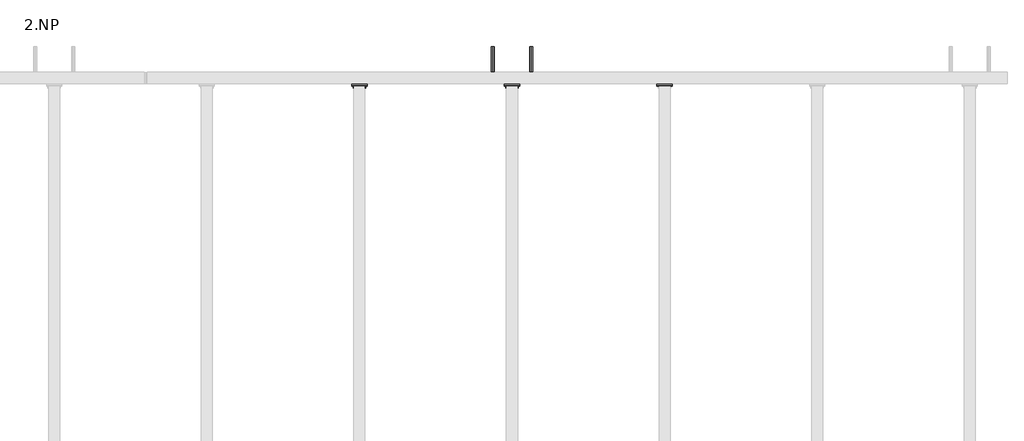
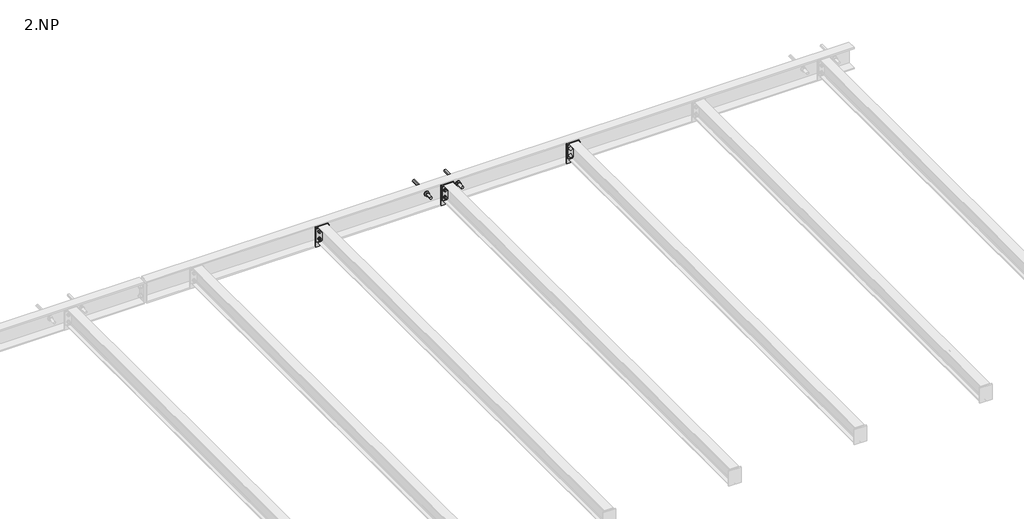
# One storey, part 12 of 18: 12 proxies.
"""IFC4 building model written with IfcOpenShell, lengths in millimetres."""

import ifcopenshell
import ifcopenshell.guid

model = None  # the IFC model being written
_history = None  # IfcOwnerHistory: only IFC2X3 demands one
_inside = {}  # id of a spatial element -> (the spatial element, [elements in it])
_under = {}  # id of a project, library or spatial element -> (it, [spatial elements below it])
_declared = {}  # id of a project -> (the project, [libraries it declares])
_typed = {}  # id of a type object -> (the type object, [elements of that type])
_made_of = {}  # id of a material, layer set ... -> (it, [elements and type objects made of it])


def new_model(schema):
    """Start an empty IFC model of exactly this schema.

    Asked for "IFC4X3", IfcOpenShell would pick the latest addendum, in which some entities
    have other attributes; the version numbers below select the first issue.
    IFC2X3 requires an IfcOwnerHistory on every rooted entity: one is made here for all.
    """
    global model, _history
    if schema == "IFC4X3":
        model = ifcopenshell.file(schema_version=(4, 3, 0, 0))
    else:
        model = ifcopenshell.file(schema=schema)
    _inside.clear()
    _under.clear()
    _declared.clear()
    _typed.clear()
    _made_of.clear()
    _history = None
    if model.schema == "IFC2X3":
        org = make("IfcOrganization", Name="unknown")
        user = make(
            "IfcPersonAndOrganization",
            ThePerson=make("IfcPerson", FamilyName="unknown"),
            TheOrganization=org,
        )
        app = make(
            "IfcApplication",
            ApplicationDeveloper=org,
            Version="unknown",
            ApplicationFullName="unknown",
            ApplicationIdentifier="unknown",
        )
        _history = make(
            "IfcOwnerHistory",
            OwningUser=user,
            OwningApplication=app,
            ChangeAction="ADDED",
            CreationDate=0,
        )
    return model


def make(cls, **values):
    """One entity of the class cls with the attributes given. An attribute that is None is left unset."""
    return model.create_entity(
        cls, **{name: value for name, value in values.items() if value is not None}
    )


def rooted(cls, **values):
    """An entity with a GlobalId (a new one), such as an element, a storey or a relation."""
    return make(cls, GlobalId=ifcopenshell.guid.new(), OwnerHistory=_history, **values)


def si_unit(unit_type, name, prefix=None):
    """IfcSIUnit, for example si_unit("LENGTHUNIT", "METRE", prefix="MILLI")."""
    return make("IfcSIUnit", UnitType=unit_type, Prefix=prefix, Name=name)


def assignment(units):
    """IfcUnitAssignment: the units of a project."""
    return None if units is None else make("IfcUnitAssignment", Units=units)


def point(xyz):
    """IfcCartesianPoint."""
    return None if xyz is None else make("IfcCartesianPoint", Coordinates=xyz)


def direction(xyz):
    """IfcDirection."""
    return None if xyz is None else make("IfcDirection", DirectionRatios=xyz)


def frame(location, z_axis=None, x_axis=None):
    """IfcAxis2Placement3D, a coordinate frame: its origin and axes. An axis left out is left unset."""
    return make(
        "IfcAxis2Placement3D",
        Location=point(location),
        Axis=direction(z_axis),
        RefDirection=direction(x_axis),
    )


def frame_2d(location, x_axis=None):
    """IfcAxis2Placement2D, a coordinate frame in the plane: its origin and x axis."""
    return make(
        "IfcAxis2Placement2D", Location=point(location), RefDirection=direction(x_axis)
    )


def origin():
    """The frame at (0, 0, 0) with its axes left unset."""
    return frame((0.0, 0.0, 0.0))


def place(relative_to, where):
    """IfcLocalPlacement: puts the frame where relative to a parent placement (None: the world)."""
    return make(
        "IfcLocalPlacement", PlacementRelTo=relative_to, RelativePlacement=where
    )


def context(
    kind, dimensions, precision=None, world=None, true_north=None, identifier=None
):
    """IfcGeometricRepresentationContext, for example the 3D "Model" context."""
    return make(
        "IfcGeometricRepresentationContext",
        ContextIdentifier=identifier,
        ContextType=kind,
        CoordinateSpaceDimension=dimensions,
        Precision=precision,
        WorldCoordinateSystem=world,
        TrueNorth=true_north,
    )


def project(units=None, contexts=None):
    """IfcProject with its units and contexts."""
    return rooted(
        "IfcProject",
        Name="project",
        RepresentationContexts=contexts,
        UnitsInContext=assignment(units),
    )


def spatial(cls, under=None, at=None, **own):
    """A site, building, storey or space (cls), placed at a placement, below another one or the project."""
    s = rooted(cls, ObjectPlacement=at, **own)
    if under is not None:
        _under.setdefault(under.id(), (under, []))[1].append(s)
    return s


def polyline(points):
    """IfcPolyline through the points."""
    return make("IfcPolyline", Points=[point(p) for p in points])


def circle_curve(where, radius):
    """IfcCircle in the frame where."""
    return make("IfcCircle", Position=where, Radius=radius)


def trimmed(basis, trim1, trim2, sense, master):
    """IfcTrimmedCurve: the piece of a basis curve between two trims."""
    return make(
        "IfcTrimmedCurve",
        BasisCurve=basis,
        Trim1=trim1,
        Trim2=trim2,
        SenseAgreement=sense,
        MasterRepresentation=master,
    )


def segment(curve, same_sense, transition):
    """IfcCompositeCurveSegment."""
    return make(
        "IfcCompositeCurveSegment",
        Transition=transition,
        SameSense=same_sense,
        ParentCurve=curve,
    )


def composite_curve(segments, self_intersect=None):
    """IfcCompositeCurve: segments joined end to end."""
    return make("IfcCompositeCurve", Segments=segments, SelfIntersect=self_intersect)


def outline(outer, holes=None, kind="AREA"):
    """IfcArbitraryClosedProfileDef: a profile drawn as a closed curve; with holes, ...WithVoids."""
    if holes is None:
        return make("IfcArbitraryClosedProfileDef", ProfileType=kind, OuterCurve=outer)
    return make(
        "IfcArbitraryProfileDefWithVoids",
        ProfileType=kind,
        OuterCurve=outer,
        InnerCurves=holes,
    )


def extrude(swept, where, along, depth):
    """IfcExtrudedAreaSolid: the profile swept, set in the frame where, extruded along a direction by depth."""
    return make(
        "IfcExtrudedAreaSolid",
        SweptArea=swept,
        Position=where,
        ExtrudedDirection=direction(along),
        Depth=depth,
    )


def shape(context_of_items, identifier, shape_type, items):
    """IfcShapeRepresentation: the items that make up one representation, for example the "Body"."""
    return make(
        "IfcShapeRepresentation",
        ContextOfItems=context_of_items,
        RepresentationIdentifier=identifier,
        RepresentationType=shape_type,
        Items=items,
    )


def made_of(thing, what):
    """Note that an element or type object is made of a material, layer set ...; save() writes the relation."""
    if what is not None:
        _made_of.setdefault(what.id(), (what, []))[1].append(thing)
    return thing


def element(
    cls,
    number,
    at=None,
    inside=None,
    cuts=None,
    type_object=None,
    material=None,
    context=None,
    identifier="Body",
    shape_type=None,
    held_by="IfcProductDefinitionShape",
    body=None,
    shapes=None,
    **own,
):
    """One element of the class cls, such as IfcWall. Its Tag is "e" and its number.

    at: its placement. inside: the storey or other place that contains it. cuts: it is an
    opening in that element (IfcRelVoidsElement). A single representation is given by context,
    identifier, shape_type and body (its items); several are given by shapes. held_by: the class
    of the entity that holds the representations. save() writes the other relations.
    """
    e = rooted(cls, Tag="e%d" % number, ObjectPlacement=at, **own)
    if body is not None:
        shapes = [shape(context, identifier, shape_type, body)]
    if shapes is not None:
        e.Representation = make(held_by, Representations=shapes)
    if inside is not None:
        _inside.setdefault(inside.id(), (inside, []))[1].append(e)
    if cuts is not None:
        rooted(
            "IfcRelVoidsElement", RelatingBuildingElement=cuts, RelatedOpeningElement=e
        )
    if type_object is not None:
        _typed.setdefault(type_object.id(), (type_object, []))[1].append(e)
    return made_of(e, material)


def aggregate(whole, parts):
    """IfcRelAggregates: a whole, such as a stair, and the parts it consists of."""
    return rooted("IfcRelAggregates", RelatingObject=whole, RelatedObjects=parts)


def save(model, path):
    """Write the relations noted so far, then the file.

    IfcRelAggregates (storeys below a building ...), IfcRelContainedInSpatialStructure (elements
    in a storey), IfcRelDefinesByType, IfcRelAssociatesMaterial and IfcRelDeclares: one each for
    every whole, place, type object, material and project.
    """
    for whole, parts in _under.values():
        aggregate(whole, parts)
    for where, things in _inside.values():
        rooted(
            "IfcRelContainedInSpatialStructure",
            RelatedElements=things,
            RelatingStructure=where,
        )
    for kind, things in _typed.values():
        rooted("IfcRelDefinesByType", RelatedObjects=things, RelatingType=kind)
    for what, things in _made_of.values():
        rooted("IfcRelAssociatesMaterial", RelatedObjects=things, RelatingMaterial=what)
    for by, libraries in _declared.values():
        rooted("IfcRelDeclares", RelatingContext=by, RelatedDefinitions=libraries)
    model.write(path)


model = new_model("IFC4")

# Units and contexts
model_context = context("Model", 3, world=origin())
ifc_project = project(units=[si_unit("LENGTHUNIT", "METRE", prefix="MILLI")], contexts=[model_context])

# Site, building, storey
site = spatial("IfcSite", under=ifc_project)
building = spatial("IfcBuilding", under=site)
storey = spatial("IfcBuildingStorey", under=building, Name="2.NP", Elevation=3000.0)

# Proxies
placement = place(None, origin())
element("IfcBuildingElementProxy", 1, Name="PLECH", ObjectType="PLECH", at=placement, inside=storey, context=model_context, shape_type="SweptSolid", body=[
    extrude(outline(polyline([(8000.0, 3775.0), (8100.0, 3775.0), (8100.0, 3767.0), (8000.0, 3767.0), (8000.0, 3775.0)])), frame((0.0, 0.0, 3175.0), z_axis=(0.0, 0.0, 1.0), x_axis=(1.0, 0.0, 0.0)), (0.0, 0.0, 1.0), 110.0),
])
element("IfcBuildingElementProxy", 2, Name="PLECH", ObjectType="PLECH", at=placement, inside=storey, context=model_context, shape_type="SweptSolid", body=[
    extrude(outline(polyline([(9000.0, 3775.0), (9100.0, 3775.0), (9100.0, 3767.0), (9000.0, 3767.0), (9000.0, 3775.0)])), frame((0.0, 0.0, 3175.0), z_axis=(0.0, 0.0, 1.0), x_axis=(1.0, 0.0, 0.0)), (0.0, 0.0, 1.0), 110.0),
])
element("IfcBuildingElementProxy", 3, Name="PLECH", ObjectType="PLECH", at=placement, inside=storey, context=model_context, shape_type="SweptSolid", body=[
    extrude(outline(polyline([(10000.0, 3775.0), (10100.0, 3775.0), (10100.0, 3767.0), (10000.0, 3767.0), (10000.0, 3775.0)])), frame((0.0, 0.0, 3175.0), z_axis=(0.0, 0.0, 1.0), x_axis=(1.0, 0.0, 0.0)), (0.0, 0.0, 1.0), 110.0),
])
element("IfcBuildingElementProxy", 4, Name="PLECH", ObjectType="PLECH", at=placement, inside=storey, context=model_context, shape_type="SweptSolid", body=[
    extrude(outline(polyline([(8000.0, 3785.0), (8100.0, 3785.0), (8100.0, 3775.0), (8000.0, 3775.0), (8000.0, 3785.0)])), frame((0.0, 0.0, 3128.0), z_axis=(0.0, 0.0, 1.0), x_axis=(1.0, 0.0, 0.0)), (0.0, 0.0, 1.0), 164.0),
])
element("IfcBuildingElementProxy", 5, Name="PLECH", ObjectType="PLECH", at=placement, inside=storey, context=model_context, shape_type="SweptSolid", body=[
    extrude(outline(composite_curve([segment(polyline([(3785.0, 3289.5), (3834.5, 3289.5)]), True, "CONTINUOUS"), segment(trimmed(circle_curve(frame_2d((3854.5, 3289.5)), 20.0), [point((3834.5, 3289.5))], [point((3854.5, 3269.5))], True, "CARTESIAN"), True, "CONTINUOUS"), segment(polyline([(3854.5, 3269.5), (3854.5, 3150.5)]), True, "CONTINUOUS"), segment(trimmed(circle_curve(frame_2d((3854.5, 3130.5)), 20.0), [point((3854.5, 3150.5))], [point((3834.5, 3130.5))], True, "CARTESIAN"), True, "CONTINUOUS"), segment(polyline([(3834.5, 3130.5), (3785.0, 3130.5), (3785.0, 3289.5)]), True, "CONTINUOUS")], self_intersect=False)), frame((8047.0, 0.0, 0.0), z_axis=(1.0, 0.0, 0.0), x_axis=(0.0, 1.0, 0.0)), (0.0, 0.0, 1.0), 6.0),
])
element("IfcBuildingElementProxy", 6, Name="PLECH", ObjectType="PLECH", at=placement, inside=storey, context=model_context, shape_type="SweptSolid", body=[
    extrude(outline(polyline([(9000.0, 3785.0), (9100.0, 3785.0), (9100.0, 3775.0), (9000.0, 3775.0), (9000.0, 3785.0)])), frame((0.0, 0.0, 3128.0), z_axis=(0.0, 0.0, 1.0), x_axis=(1.0, 0.0, 0.0)), (0.0, 0.0, 1.0), 164.0),
])
element("IfcBuildingElementProxy", 7, Name="PLECH", ObjectType="PLECH", at=placement, inside=storey, context=model_context, shape_type="SweptSolid", body=[
    extrude(outline(composite_curve([segment(polyline([(3785.0, 3289.5), (3834.5, 3289.5)]), True, "CONTINUOUS"), segment(trimmed(circle_curve(frame_2d((3854.5, 3289.5)), 20.0), [point((3834.5, 3289.5))], [point((3854.5, 3269.5))], True, "CARTESIAN"), True, "CONTINUOUS"), segment(polyline([(3854.5, 3269.5), (3854.5, 3150.5)]), True, "CONTINUOUS"), segment(trimmed(circle_curve(frame_2d((3854.5, 3130.5)), 20.0), [point((3854.5, 3150.5))], [point((3834.5, 3130.5))], True, "CARTESIAN"), True, "CONTINUOUS"), segment(polyline([(3834.5, 3130.5), (3785.0, 3130.5), (3785.0, 3289.5)]), True, "CONTINUOUS")], self_intersect=False)), frame((9047.0, 0.0, 0.0), z_axis=(1.0, 0.0, 0.0), x_axis=(0.0, 1.0, 0.0)), (0.0, 0.0, 1.0), 6.0),
])
element("IfcBuildingElementProxy", 8, Name="PLECH", ObjectType="PLECH", at=placement, inside=storey, context=model_context, shape_type="SweptSolid", body=[
    extrude(outline(polyline([(10000.0, 3785.0), (10100.0, 3785.0), (10100.0, 3775.0), (10000.0, 3775.0), (10000.0, 3785.0)])), frame((0.0, 0.0, 3128.0), z_axis=(0.0, 0.0, 1.0), x_axis=(1.0, 0.0, 0.0)), (0.0, 0.0, 1.0), 164.0),
])
element("IfcBuildingElementProxy", 9, Name="PLECH", ObjectType="PLECH", at=placement, inside=storey, context=model_context, shape_type="SweptSolid", body=[
    extrude(outline(composite_curve([segment(polyline([(3785.0, 3289.5), (3834.5, 3289.5)]), True, "CONTINUOUS"), segment(trimmed(circle_curve(frame_2d((3854.5, 3289.5)), 20.0), [point((3834.5, 3289.5))], [point((3854.5, 3269.5))], True, "CARTESIAN"), True, "CONTINUOUS"), segment(polyline([(3854.5, 3269.5), (3854.5, 3150.5)]), True, "CONTINUOUS"), segment(trimmed(circle_curve(frame_2d((3854.5, 3130.5)), 20.0), [point((3854.5, 3150.5))], [point((3834.5, 3130.5))], True, "CARTESIAN"), True, "CONTINUOUS"), segment(polyline([(3834.5, 3130.5), (3785.0, 3130.5), (3785.0, 3289.5)]), True, "CONTINUOUS")], self_intersect=False)), frame((10047.0, 0.0, 0.0), z_axis=(1.0, 0.0, 0.0), x_axis=(0.0, 1.0, 0.0)), (0.0, 0.0, 1.0), 6.0),
])
element("IfcBuildingElementProxy", 10, Name="Bolt assembly", ObjectType="Bolt assembly", at=placement, inside=storey, context=model_context, shape_type="SweptSolid", body=[
    extrude(outline(composite_curve([segment(trimmed(circle_curve(frame_2d((3260.0, 8020.0)), 6.5), [point((3260.0, 8026.5))], [point((3260.0, 8013.5))], False, "CARTESIAN"), True, "CONTINUOUS"), segment(trimmed(circle_curve(frame_2d((3260.0, 8020.0)), 6.5), [point((3260.0, 8013.5))], [point((3260.0, 8026.5))], False, "CARTESIAN"), True, "CONTINUOUS")], self_intersect=False)), frame((0.0, 3774.9, 0.0), z_axis=(0.0, 1.0, 0.0), x_axis=(0.0, 0.0, 1.0)), (0.0, 0.0, 1.0), 10.0),
    extrude(outline(polyline([(3260.0, 8030.9696551), (3269.5, 8025.4848276), (3269.5, 8014.5151724), (3260.0, 8009.0303449), (3250.5, 8014.5151724), (3250.5, 8025.4848276), (3260.0, 8030.9696551)])), frame((0.0, 3787.5, 0.0), z_axis=(0.0, 1.0, 0.0), x_axis=(0.0, 0.0, 1.0)), (0.0, 0.0, 1.0), 7.5),
    extrude(outline(composite_curve([segment(trimmed(circle_curve(frame_2d((3260.0, 8020.0)), 6.0), [point((3260.0, 8026.0))], [point((3260.0, 8014.0))], False, "CARTESIAN"), True, "CONTINUOUS"), segment(trimmed(circle_curve(frame_2d((3260.0, 8020.0)), 6.0), [point((3260.0, 8014.0))], [point((3260.0, 8026.0))], False, "CARTESIAN"), True, "CONTINUOUS")], self_intersect=False)), frame((0.0, 3747.5, 0.0), z_axis=(0.0, 1.0, 0.0), x_axis=(0.0, 0.0, 1.0)), (0.0, 0.0, 1.0), 40.0),
    extrude(outline(composite_curve([segment(trimmed(circle_curve(frame_2d((3260.0, 8020.0)), 12.0), [point((3260.0, 8032.0))], [point((3260.0, 8008.0))], False, "CARTESIAN"), True, "CONTINUOUS"), segment(trimmed(circle_curve(frame_2d((3260.0, 8020.0)), 12.0), [point((3260.0, 8008.0))], [point((3260.0, 8032.0))], False, "CARTESIAN"), True, "CONTINUOUS")], self_intersect=False)), frame((0.0, 3785.0, 0.0), z_axis=(0.0, 1.0, 0.0), x_axis=(0.0, 0.0, 1.0)), (0.0, 0.0, 1.0), 2.5),
    extrude(outline(composite_curve([segment(trimmed(circle_curve(frame_2d((3260.0, 8020.0)), 12.0), [point((3260.0, 8032.0))], [point((3260.0, 8008.0))], False, "CARTESIAN"), True, "CONTINUOUS"), segment(trimmed(circle_curve(frame_2d((3260.0, 8020.0)), 12.0), [point((3260.0, 8008.0))], [point((3260.0, 8032.0))], False, "CARTESIAN"), True, "CONTINUOUS")], self_intersect=False)), frame((0.0, 3764.5, 0.0), z_axis=(0.0, 1.0, 0.0), x_axis=(0.0, 0.0, 1.0)), (0.0, 0.0, 1.0), 2.5),
    extrude(outline(polyline([(3260.0, 8030.9696551), (3269.5, 8025.4848276), (3269.5, 8014.5151724), (3260.0, 8009.0303449), (3250.5, 8014.5151724), (3250.5, 8025.4848276), (3260.0, 8030.9696551)])), frame((0.0, 3754.5, 0.0), z_axis=(0.0, 1.0, 0.0), x_axis=(0.0, 0.0, 1.0)), (0.0, 0.0, 1.0), 10.0),
    extrude(outline(composite_curve([segment(trimmed(circle_curve(frame_2d((3260.0, 8020.0)), 6.5), [point((3260.0, 8026.5))], [point((3260.0, 8013.5))], False, "CARTESIAN"), True, "CONTINUOUS"), segment(trimmed(circle_curve(frame_2d((3260.0, 8020.0)), 6.5), [point((3260.0, 8013.5))], [point((3260.0, 8026.5))], False, "CARTESIAN"), True, "CONTINUOUS")], self_intersect=False)), frame((0.0, 3767.0, 0.0), z_axis=(0.0, 1.0, 0.0), x_axis=(0.0, 0.0, 1.0)), (0.0, 0.0, 1.0), 8.1),
    extrude(outline(composite_curve([segment(trimmed(circle_curve(frame_2d((3260.0, 8080.0)), 6.5), [point((3260.0, 8086.5))], [point((3260.0, 8073.5))], False, "CARTESIAN"), True, "CONTINUOUS"), segment(trimmed(circle_curve(frame_2d((3260.0, 8080.0)), 6.5), [point((3260.0, 8073.5))], [point((3260.0, 8086.5))], False, "CARTESIAN"), True, "CONTINUOUS")], self_intersect=False)), frame((0.0, 3774.9, 0.0), z_axis=(0.0, 1.0, 0.0), x_axis=(0.0, 0.0, 1.0)), (0.0, 0.0, 1.0), 10.0),
    extrude(outline(polyline([(3260.0, 8090.9696551), (3269.5, 8085.4848276), (3269.5, 8074.5151724), (3260.0, 8069.0303449), (3250.5, 8074.5151724), (3250.5, 8085.4848276), (3260.0, 8090.9696551)])), frame((0.0, 3787.5, 0.0), z_axis=(0.0, 1.0, 0.0), x_axis=(0.0, 0.0, 1.0)), (0.0, 0.0, 1.0), 7.5),
    extrude(outline(composite_curve([segment(trimmed(circle_curve(frame_2d((3260.0, 8080.0)), 6.0), [point((3260.0, 8086.0))], [point((3260.0, 8074.0))], False, "CARTESIAN"), True, "CONTINUOUS"), segment(trimmed(circle_curve(frame_2d((3260.0, 8080.0)), 6.0), [point((3260.0, 8074.0))], [point((3260.0, 8086.0))], False, "CARTESIAN"), True, "CONTINUOUS")], self_intersect=False)), frame((0.0, 3747.5, 0.0), z_axis=(0.0, 1.0, 0.0), x_axis=(0.0, 0.0, 1.0)), (0.0, 0.0, 1.0), 40.0),
    extrude(outline(composite_curve([segment(trimmed(circle_curve(frame_2d((3260.0, 8080.0)), 12.0), [point((3260.0, 8092.0))], [point((3260.0, 8068.0))], False, "CARTESIAN"), True, "CONTINUOUS"), segment(trimmed(circle_curve(frame_2d((3260.0, 8080.0)), 12.0), [point((3260.0, 8068.0))], [point((3260.0, 8092.0))], False, "CARTESIAN"), True, "CONTINUOUS")], self_intersect=False)), frame((0.0, 3785.0, 0.0), z_axis=(0.0, 1.0, 0.0), x_axis=(0.0, 0.0, 1.0)), (0.0, 0.0, 1.0), 2.5),
    extrude(outline(composite_curve([segment(trimmed(circle_curve(frame_2d((3260.0, 8080.0)), 12.0), [point((3260.0, 8092.0))], [point((3260.0, 8068.0))], False, "CARTESIAN"), True, "CONTINUOUS"), segment(trimmed(circle_curve(frame_2d((3260.0, 8080.0)), 12.0), [point((3260.0, 8068.0))], [point((3260.0, 8092.0))], False, "CARTESIAN"), True, "CONTINUOUS")], self_intersect=False)), frame((0.0, 3764.5, 0.0), z_axis=(0.0, 1.0, 0.0), x_axis=(0.0, 0.0, 1.0)), (0.0, 0.0, 1.0), 2.5),
    extrude(outline(polyline([(3260.0, 8090.9696551), (3269.5, 8085.4848276), (3269.5, 8074.5151724), (3260.0, 8069.0303449), (3250.5, 8074.5151724), (3250.5, 8085.4848276), (3260.0, 8090.9696551)])), frame((0.0, 3754.5, 0.0), z_axis=(0.0, 1.0, 0.0), x_axis=(0.0, 0.0, 1.0)), (0.0, 0.0, 1.0), 10.0),
    extrude(outline(composite_curve([segment(trimmed(circle_curve(frame_2d((3260.0, 8080.0)), 6.5), [point((3260.0, 8086.5))], [point((3260.0, 8073.5))], False, "CARTESIAN"), True, "CONTINUOUS"), segment(trimmed(circle_curve(frame_2d((3260.0, 8080.0)), 6.5), [point((3260.0, 8073.5))], [point((3260.0, 8086.5))], False, "CARTESIAN"), True, "CONTINUOUS")], self_intersect=False)), frame((0.0, 3767.0, 0.0), z_axis=(0.0, 1.0, 0.0), x_axis=(0.0, 0.0, 1.0)), (0.0, 0.0, 1.0), 8.1),
    extrude(outline(composite_curve([segment(trimmed(circle_curve(frame_2d((3200.0, 8020.0)), 6.5), [point((3200.0, 8026.5))], [point((3200.0, 8013.5))], False, "CARTESIAN"), True, "CONTINUOUS"), segment(trimmed(circle_curve(frame_2d((3200.0, 8020.0)), 6.5), [point((3200.0, 8013.5))], [point((3200.0, 8026.5))], False, "CARTESIAN"), True, "CONTINUOUS")], self_intersect=False)), frame((0.0, 3774.9, 0.0), z_axis=(0.0, 1.0, 0.0), x_axis=(0.0, 0.0, 1.0)), (0.0, 0.0, 1.0), 10.0),
    extrude(outline(polyline([(3200.0, 8030.9696551), (3209.5, 8025.4848276), (3209.5, 8014.5151724), (3200.0, 8009.0303449), (3190.5, 8014.5151724), (3190.5, 8025.4848276), (3200.0, 8030.9696551)])), frame((0.0, 3787.5, 0.0), z_axis=(0.0, 1.0, 0.0), x_axis=(0.0, 0.0, 1.0)), (0.0, 0.0, 1.0), 7.5),
    extrude(outline(composite_curve([segment(trimmed(circle_curve(frame_2d((3200.0, 8020.0)), 6.0), [point((3200.0, 8026.0))], [point((3200.0, 8014.0))], False, "CARTESIAN"), True, "CONTINUOUS"), segment(trimmed(circle_curve(frame_2d((3200.0, 8020.0)), 6.0), [point((3200.0, 8014.0))], [point((3200.0, 8026.0))], False, "CARTESIAN"), True, "CONTINUOUS")], self_intersect=False)), frame((0.0, 3747.5, 0.0), z_axis=(0.0, 1.0, 0.0), x_axis=(0.0, 0.0, 1.0)), (0.0, 0.0, 1.0), 40.0),
    extrude(outline(composite_curve([segment(trimmed(circle_curve(frame_2d((3200.0, 8020.0)), 12.0), [point((3200.0, 8032.0))], [point((3200.0, 8008.0))], False, "CARTESIAN"), True, "CONTINUOUS"), segment(trimmed(circle_curve(frame_2d((3200.0, 8020.0)), 12.0), [point((3200.0, 8008.0))], [point((3200.0, 8032.0))], False, "CARTESIAN"), True, "CONTINUOUS")], self_intersect=False)), frame((0.0, 3785.0, 0.0), z_axis=(0.0, 1.0, 0.0), x_axis=(0.0, 0.0, 1.0)), (0.0, 0.0, 1.0), 2.5),
    extrude(outline(composite_curve([segment(trimmed(circle_curve(frame_2d((3200.0, 8020.0)), 12.0), [point((3200.0, 8032.0))], [point((3200.0, 8008.0))], False, "CARTESIAN"), True, "CONTINUOUS"), segment(trimmed(circle_curve(frame_2d((3200.0, 8020.0)), 12.0), [point((3200.0, 8008.0))], [point((3200.0, 8032.0))], False, "CARTESIAN"), True, "CONTINUOUS")], self_intersect=False)), frame((0.0, 3764.5, 0.0), z_axis=(0.0, 1.0, 0.0), x_axis=(0.0, 0.0, 1.0)), (0.0, 0.0, 1.0), 2.5),
    extrude(outline(polyline([(3200.0, 8030.9696551), (3209.5, 8025.4848276), (3209.5, 8014.5151724), (3200.0, 8009.0303449), (3190.5, 8014.5151724), (3190.5, 8025.4848276), (3200.0, 8030.9696551)])), frame((0.0, 3754.5, 0.0), z_axis=(0.0, 1.0, 0.0), x_axis=(0.0, 0.0, 1.0)), (0.0, 0.0, 1.0), 10.0),
    extrude(outline(composite_curve([segment(trimmed(circle_curve(frame_2d((3200.0, 8020.0)), 6.5), [point((3200.0, 8026.5))], [point((3200.0, 8013.5))], False, "CARTESIAN"), True, "CONTINUOUS"), segment(trimmed(circle_curve(frame_2d((3200.0, 8020.0)), 6.5), [point((3200.0, 8013.5))], [point((3200.0, 8026.5))], False, "CARTESIAN"), True, "CONTINUOUS")], self_intersect=False)), frame((0.0, 3767.0, 0.0), z_axis=(0.0, 1.0, 0.0), x_axis=(0.0, 0.0, 1.0)), (0.0, 0.0, 1.0), 8.1),
    extrude(outline(composite_curve([segment(trimmed(circle_curve(frame_2d((3200.0, 8080.0)), 6.5), [point((3200.0, 8086.5))], [point((3200.0, 8073.5))], False, "CARTESIAN"), True, "CONTINUOUS"), segment(trimmed(circle_curve(frame_2d((3200.0, 8080.0)), 6.5), [point((3200.0, 8073.5))], [point((3200.0, 8086.5))], False, "CARTESIAN"), True, "CONTINUOUS")], self_intersect=False)), frame((0.0, 3774.9, 0.0), z_axis=(0.0, 1.0, 0.0), x_axis=(0.0, 0.0, 1.0)), (0.0, 0.0, 1.0), 10.0),
    extrude(outline(polyline([(3200.0, 8090.9696551), (3209.5, 8085.4848276), (3209.5, 8074.5151724), (3200.0, 8069.0303449), (3190.5, 8074.5151724), (3190.5, 8085.4848276), (3200.0, 8090.9696551)])), frame((0.0, 3787.5, 0.0), z_axis=(0.0, 1.0, 0.0), x_axis=(0.0, 0.0, 1.0)), (0.0, 0.0, 1.0), 7.5),
    extrude(outline(composite_curve([segment(trimmed(circle_curve(frame_2d((3200.0, 8080.0)), 6.0), [point((3200.0, 8086.0))], [point((3200.0, 8074.0))], False, "CARTESIAN"), True, "CONTINUOUS"), segment(trimmed(circle_curve(frame_2d((3200.0, 8080.0)), 6.0), [point((3200.0, 8074.0))], [point((3200.0, 8086.0))], False, "CARTESIAN"), True, "CONTINUOUS")], self_intersect=False)), frame((0.0, 3747.5, 0.0), z_axis=(0.0, 1.0, 0.0), x_axis=(0.0, 0.0, 1.0)), (0.0, 0.0, 1.0), 40.0),
    extrude(outline(composite_curve([segment(trimmed(circle_curve(frame_2d((3200.0, 8080.0)), 12.0), [point((3200.0, 8092.0))], [point((3200.0, 8068.0))], False, "CARTESIAN"), True, "CONTINUOUS"), segment(trimmed(circle_curve(frame_2d((3200.0, 8080.0)), 12.0), [point((3200.0, 8068.0))], [point((3200.0, 8092.0))], False, "CARTESIAN"), True, "CONTINUOUS")], self_intersect=False)), frame((0.0, 3785.0, 0.0), z_axis=(0.0, 1.0, 0.0), x_axis=(0.0, 0.0, 1.0)), (0.0, 0.0, 1.0), 2.5),
    extrude(outline(composite_curve([segment(trimmed(circle_curve(frame_2d((3200.0, 8080.0)), 12.0), [point((3200.0, 8092.0))], [point((3200.0, 8068.0))], False, "CARTESIAN"), True, "CONTINUOUS"), segment(trimmed(circle_curve(frame_2d((3200.0, 8080.0)), 12.0), [point((3200.0, 8068.0))], [point((3200.0, 8092.0))], False, "CARTESIAN"), True, "CONTINUOUS")], self_intersect=False)), frame((0.0, 3764.5, 0.0), z_axis=(0.0, 1.0, 0.0), x_axis=(0.0, 0.0, 1.0)), (0.0, 0.0, 1.0), 2.5),
    extrude(outline(polyline([(3200.0, 8090.9696551), (3209.5, 8085.4848276), (3209.5, 8074.5151724), (3200.0, 8069.0303449), (3190.5, 8074.5151724), (3190.5, 8085.4848276), (3200.0, 8090.9696551)])), frame((0.0, 3754.5, 0.0), z_axis=(0.0, 1.0, 0.0), x_axis=(0.0, 0.0, 1.0)), (0.0, 0.0, 1.0), 10.0),
    extrude(outline(composite_curve([segment(trimmed(circle_curve(frame_2d((3200.0, 8080.0)), 6.5), [point((3200.0, 8086.5))], [point((3200.0, 8073.5))], False, "CARTESIAN"), True, "CONTINUOUS"), segment(trimmed(circle_curve(frame_2d((3200.0, 8080.0)), 6.5), [point((3200.0, 8073.5))], [point((3200.0, 8086.5))], False, "CARTESIAN"), True, "CONTINUOUS")], self_intersect=False)), frame((0.0, 3767.0, 0.0), z_axis=(0.0, 1.0, 0.0), x_axis=(0.0, 0.0, 1.0)), (0.0, 0.0, 1.0), 8.1),
])
element("IfcBuildingElementProxy", 11, Name="Bolt assembly", ObjectType="Bolt assembly", at=placement, inside=storey, context=model_context, shape_type="SweptSolid", body=[
    extrude(outline(composite_curve([segment(trimmed(circle_curve(frame_2d((3260.0, 9020.0)), 6.5), [point((3260.0, 9026.5))], [point((3260.0, 9013.5))], False, "CARTESIAN"), True, "CONTINUOUS"), segment(trimmed(circle_curve(frame_2d((3260.0, 9020.0)), 6.5), [point((3260.0, 9013.5))], [point((3260.0, 9026.5))], False, "CARTESIAN"), True, "CONTINUOUS")], self_intersect=False)), frame((0.0, 3774.9, 0.0), z_axis=(0.0, 1.0, 0.0), x_axis=(0.0, 0.0, 1.0)), (0.0, 0.0, 1.0), 10.0),
    extrude(outline(polyline([(3260.0, 9030.9696551), (3269.5, 9025.4848276), (3269.5, 9014.5151724), (3260.0, 9009.0303449), (3250.5, 9014.5151724), (3250.5, 9025.4848276), (3260.0, 9030.9696551)])), frame((0.0, 3787.5, 0.0), z_axis=(0.0, 1.0, 0.0), x_axis=(0.0, 0.0, 1.0)), (0.0, 0.0, 1.0), 7.5),
    extrude(outline(composite_curve([segment(trimmed(circle_curve(frame_2d((3260.0, 9020.0)), 6.0), [point((3260.0, 9026.0))], [point((3260.0, 9014.0))], False, "CARTESIAN"), True, "CONTINUOUS"), segment(trimmed(circle_curve(frame_2d((3260.0, 9020.0)), 6.0), [point((3260.0, 9014.0))], [point((3260.0, 9026.0))], False, "CARTESIAN"), True, "CONTINUOUS")], self_intersect=False)), frame((0.0, 3747.5, 0.0), z_axis=(0.0, 1.0, 0.0), x_axis=(0.0, 0.0, 1.0)), (0.0, 0.0, 1.0), 40.0),
    extrude(outline(composite_curve([segment(trimmed(circle_curve(frame_2d((3260.0, 9020.0)), 12.0), [point((3260.0, 9032.0))], [point((3260.0, 9008.0))], False, "CARTESIAN"), True, "CONTINUOUS"), segment(trimmed(circle_curve(frame_2d((3260.0, 9020.0)), 12.0), [point((3260.0, 9008.0))], [point((3260.0, 9032.0))], False, "CARTESIAN"), True, "CONTINUOUS")], self_intersect=False)), frame((0.0, 3785.0, 0.0), z_axis=(0.0, 1.0, 0.0), x_axis=(0.0, 0.0, 1.0)), (0.0, 0.0, 1.0), 2.5),
    extrude(outline(composite_curve([segment(trimmed(circle_curve(frame_2d((3260.0, 9020.0)), 12.0), [point((3260.0, 9032.0))], [point((3260.0, 9008.0))], False, "CARTESIAN"), True, "CONTINUOUS"), segment(trimmed(circle_curve(frame_2d((3260.0, 9020.0)), 12.0), [point((3260.0, 9008.0))], [point((3260.0, 9032.0))], False, "CARTESIAN"), True, "CONTINUOUS")], self_intersect=False)), frame((0.0, 3764.5, 0.0), z_axis=(0.0, 1.0, 0.0), x_axis=(0.0, 0.0, 1.0)), (0.0, 0.0, 1.0), 2.5),
    extrude(outline(polyline([(3260.0, 9030.9696551), (3269.5, 9025.4848276), (3269.5, 9014.5151724), (3260.0, 9009.0303449), (3250.5, 9014.5151724), (3250.5, 9025.4848276), (3260.0, 9030.9696551)])), frame((0.0, 3754.5, 0.0), z_axis=(0.0, 1.0, 0.0), x_axis=(0.0, 0.0, 1.0)), (0.0, 0.0, 1.0), 10.0),
    extrude(outline(composite_curve([segment(trimmed(circle_curve(frame_2d((3260.0, 9020.0)), 6.5), [point((3260.0, 9026.5))], [point((3260.0, 9013.5))], False, "CARTESIAN"), True, "CONTINUOUS"), segment(trimmed(circle_curve(frame_2d((3260.0, 9020.0)), 6.5), [point((3260.0, 9013.5))], [point((3260.0, 9026.5))], False, "CARTESIAN"), True, "CONTINUOUS")], self_intersect=False)), frame((0.0, 3767.0, 0.0), z_axis=(0.0, 1.0, 0.0), x_axis=(0.0, 0.0, 1.0)), (0.0, 0.0, 1.0), 8.1),
    extrude(outline(composite_curve([segment(trimmed(circle_curve(frame_2d((3260.0, 9080.0)), 6.5), [point((3260.0, 9086.5))], [point((3260.0, 9073.5))], False, "CARTESIAN"), True, "CONTINUOUS"), segment(trimmed(circle_curve(frame_2d((3260.0, 9080.0)), 6.5), [point((3260.0, 9073.5))], [point((3260.0, 9086.5))], False, "CARTESIAN"), True, "CONTINUOUS")], self_intersect=False)), frame((0.0, 3774.9, 0.0), z_axis=(0.0, 1.0, 0.0), x_axis=(0.0, 0.0, 1.0)), (0.0, 0.0, 1.0), 10.0),
    extrude(outline(polyline([(3260.0, 9090.9696551), (3269.5, 9085.4848276), (3269.5, 9074.5151724), (3260.0, 9069.0303449), (3250.5, 9074.5151724), (3250.5, 9085.4848276), (3260.0, 9090.9696551)])), frame((0.0, 3787.5, 0.0), z_axis=(0.0, 1.0, 0.0), x_axis=(0.0, 0.0, 1.0)), (0.0, 0.0, 1.0), 7.5),
    extrude(outline(composite_curve([segment(trimmed(circle_curve(frame_2d((3260.0, 9080.0)), 6.0), [point((3260.0, 9086.0))], [point((3260.0, 9074.0))], False, "CARTESIAN"), True, "CONTINUOUS"), segment(trimmed(circle_curve(frame_2d((3260.0, 9080.0)), 6.0), [point((3260.0, 9074.0))], [point((3260.0, 9086.0))], False, "CARTESIAN"), True, "CONTINUOUS")], self_intersect=False)), frame((0.0, 3747.5, 0.0), z_axis=(0.0, 1.0, 0.0), x_axis=(0.0, 0.0, 1.0)), (0.0, 0.0, 1.0), 40.0),
    extrude(outline(composite_curve([segment(trimmed(circle_curve(frame_2d((3260.0, 9080.0)), 12.0), [point((3260.0, 9092.0))], [point((3260.0, 9068.0))], False, "CARTESIAN"), True, "CONTINUOUS"), segment(trimmed(circle_curve(frame_2d((3260.0, 9080.0)), 12.0), [point((3260.0, 9068.0))], [point((3260.0, 9092.0))], False, "CARTESIAN"), True, "CONTINUOUS")], self_intersect=False)), frame((0.0, 3785.0, 0.0), z_axis=(0.0, 1.0, 0.0), x_axis=(0.0, 0.0, 1.0)), (0.0, 0.0, 1.0), 2.5),
    extrude(outline(composite_curve([segment(trimmed(circle_curve(frame_2d((3260.0, 9080.0)), 12.0), [point((3260.0, 9092.0))], [point((3260.0, 9068.0))], False, "CARTESIAN"), True, "CONTINUOUS"), segment(trimmed(circle_curve(frame_2d((3260.0, 9080.0)), 12.0), [point((3260.0, 9068.0))], [point((3260.0, 9092.0))], False, "CARTESIAN"), True, "CONTINUOUS")], self_intersect=False)), frame((0.0, 3764.5, 0.0), z_axis=(0.0, 1.0, 0.0), x_axis=(0.0, 0.0, 1.0)), (0.0, 0.0, 1.0), 2.5),
    extrude(outline(polyline([(3260.0, 9090.9696551), (3269.5, 9085.4848276), (3269.5, 9074.5151724), (3260.0, 9069.0303449), (3250.5, 9074.5151724), (3250.5, 9085.4848276), (3260.0, 9090.9696551)])), frame((0.0, 3754.5, 0.0), z_axis=(0.0, 1.0, 0.0), x_axis=(0.0, 0.0, 1.0)), (0.0, 0.0, 1.0), 10.0),
    extrude(outline(composite_curve([segment(trimmed(circle_curve(frame_2d((3260.0, 9080.0)), 6.5), [point((3260.0, 9086.5))], [point((3260.0, 9073.5))], False, "CARTESIAN"), True, "CONTINUOUS"), segment(trimmed(circle_curve(frame_2d((3260.0, 9080.0)), 6.5), [point((3260.0, 9073.5))], [point((3260.0, 9086.5))], False, "CARTESIAN"), True, "CONTINUOUS")], self_intersect=False)), frame((0.0, 3767.0, 0.0), z_axis=(0.0, 1.0, 0.0), x_axis=(0.0, 0.0, 1.0)), (0.0, 0.0, 1.0), 8.1),
    extrude(outline(composite_curve([segment(trimmed(circle_curve(frame_2d((3200.0, 9020.0)), 6.5), [point((3200.0, 9026.5))], [point((3200.0, 9013.5))], False, "CARTESIAN"), True, "CONTINUOUS"), segment(trimmed(circle_curve(frame_2d((3200.0, 9020.0)), 6.5), [point((3200.0, 9013.5))], [point((3200.0, 9026.5))], False, "CARTESIAN"), True, "CONTINUOUS")], self_intersect=False)), frame((0.0, 3774.9, 0.0), z_axis=(0.0, 1.0, 0.0), x_axis=(0.0, 0.0, 1.0)), (0.0, 0.0, 1.0), 10.0),
    extrude(outline(polyline([(3200.0, 9030.9696551), (3209.5, 9025.4848276), (3209.5, 9014.5151724), (3200.0, 9009.0303449), (3190.5, 9014.5151724), (3190.5, 9025.4848276), (3200.0, 9030.9696551)])), frame((0.0, 3787.5, 0.0), z_axis=(0.0, 1.0, 0.0), x_axis=(0.0, 0.0, 1.0)), (0.0, 0.0, 1.0), 7.5),
    extrude(outline(composite_curve([segment(trimmed(circle_curve(frame_2d((3200.0, 9020.0)), 6.0), [point((3200.0, 9026.0))], [point((3200.0, 9014.0))], False, "CARTESIAN"), True, "CONTINUOUS"), segment(trimmed(circle_curve(frame_2d((3200.0, 9020.0)), 6.0), [point((3200.0, 9014.0))], [point((3200.0, 9026.0))], False, "CARTESIAN"), True, "CONTINUOUS")], self_intersect=False)), frame((0.0, 3747.5, 0.0), z_axis=(0.0, 1.0, 0.0), x_axis=(0.0, 0.0, 1.0)), (0.0, 0.0, 1.0), 40.0),
    extrude(outline(composite_curve([segment(trimmed(circle_curve(frame_2d((3200.0, 9020.0)), 12.0), [point((3200.0, 9032.0))], [point((3200.0, 9008.0))], False, "CARTESIAN"), True, "CONTINUOUS"), segment(trimmed(circle_curve(frame_2d((3200.0, 9020.0)), 12.0), [point((3200.0, 9008.0))], [point((3200.0, 9032.0))], False, "CARTESIAN"), True, "CONTINUOUS")], self_intersect=False)), frame((0.0, 3785.0, 0.0), z_axis=(0.0, 1.0, 0.0), x_axis=(0.0, 0.0, 1.0)), (0.0, 0.0, 1.0), 2.5),
    extrude(outline(composite_curve([segment(trimmed(circle_curve(frame_2d((3200.0, 9020.0)), 12.0), [point((3200.0, 9032.0))], [point((3200.0, 9008.0))], False, "CARTESIAN"), True, "CONTINUOUS"), segment(trimmed(circle_curve(frame_2d((3200.0, 9020.0)), 12.0), [point((3200.0, 9008.0))], [point((3200.0, 9032.0))], False, "CARTESIAN"), True, "CONTINUOUS")], self_intersect=False)), frame((0.0, 3764.5, 0.0), z_axis=(0.0, 1.0, 0.0), x_axis=(0.0, 0.0, 1.0)), (0.0, 0.0, 1.0), 2.5),
    extrude(outline(polyline([(3200.0, 9030.9696551), (3209.5, 9025.4848276), (3209.5, 9014.5151724), (3200.0, 9009.0303449), (3190.5, 9014.5151724), (3190.5, 9025.4848276), (3200.0, 9030.9696551)])), frame((0.0, 3754.5, 0.0), z_axis=(0.0, 1.0, 0.0), x_axis=(0.0, 0.0, 1.0)), (0.0, 0.0, 1.0), 10.0),
    extrude(outline(composite_curve([segment(trimmed(circle_curve(frame_2d((3200.0, 9020.0)), 6.5), [point((3200.0, 9026.5))], [point((3200.0, 9013.5))], False, "CARTESIAN"), True, "CONTINUOUS"), segment(trimmed(circle_curve(frame_2d((3200.0, 9020.0)), 6.5), [point((3200.0, 9013.5))], [point((3200.0, 9026.5))], False, "CARTESIAN"), True, "CONTINUOUS")], self_intersect=False)), frame((0.0, 3767.0, 0.0), z_axis=(0.0, 1.0, 0.0), x_axis=(0.0, 0.0, 1.0)), (0.0, 0.0, 1.0), 8.1),
    extrude(outline(composite_curve([segment(trimmed(circle_curve(frame_2d((3200.0, 9080.0)), 6.5), [point((3200.0, 9086.5))], [point((3200.0, 9073.5))], False, "CARTESIAN"), True, "CONTINUOUS"), segment(trimmed(circle_curve(frame_2d((3200.0, 9080.0)), 6.5), [point((3200.0, 9073.5))], [point((3200.0, 9086.5))], False, "CARTESIAN"), True, "CONTINUOUS")], self_intersect=False)), frame((0.0, 3774.9, 0.0), z_axis=(0.0, 1.0, 0.0), x_axis=(0.0, 0.0, 1.0)), (0.0, 0.0, 1.0), 10.0),
    extrude(outline(polyline([(3200.0, 9090.9696551), (3209.5, 9085.4848276), (3209.5, 9074.5151724), (3200.0, 9069.0303449), (3190.5, 9074.5151724), (3190.5, 9085.4848276), (3200.0, 9090.9696551)])), frame((0.0, 3787.5, 0.0), z_axis=(0.0, 1.0, 0.0), x_axis=(0.0, 0.0, 1.0)), (0.0, 0.0, 1.0), 7.5),
    extrude(outline(composite_curve([segment(trimmed(circle_curve(frame_2d((3200.0, 9080.0)), 6.0), [point((3200.0, 9086.0))], [point((3200.0, 9074.0))], False, "CARTESIAN"), True, "CONTINUOUS"), segment(trimmed(circle_curve(frame_2d((3200.0, 9080.0)), 6.0), [point((3200.0, 9074.0))], [point((3200.0, 9086.0))], False, "CARTESIAN"), True, "CONTINUOUS")], self_intersect=False)), frame((0.0, 3747.5, 0.0), z_axis=(0.0, 1.0, 0.0), x_axis=(0.0, 0.0, 1.0)), (0.0, 0.0, 1.0), 40.0),
    extrude(outline(composite_curve([segment(trimmed(circle_curve(frame_2d((3200.0, 9080.0)), 12.0), [point((3200.0, 9092.0))], [point((3200.0, 9068.0))], False, "CARTESIAN"), True, "CONTINUOUS"), segment(trimmed(circle_curve(frame_2d((3200.0, 9080.0)), 12.0), [point((3200.0, 9068.0))], [point((3200.0, 9092.0))], False, "CARTESIAN"), True, "CONTINUOUS")], self_intersect=False)), frame((0.0, 3785.0, 0.0), z_axis=(0.0, 1.0, 0.0), x_axis=(0.0, 0.0, 1.0)), (0.0, 0.0, 1.0), 2.5),
    extrude(outline(composite_curve([segment(trimmed(circle_curve(frame_2d((3200.0, 9080.0)), 12.0), [point((3200.0, 9092.0))], [point((3200.0, 9068.0))], False, "CARTESIAN"), True, "CONTINUOUS"), segment(trimmed(circle_curve(frame_2d((3200.0, 9080.0)), 12.0), [point((3200.0, 9068.0))], [point((3200.0, 9092.0))], False, "CARTESIAN"), True, "CONTINUOUS")], self_intersect=False)), frame((0.0, 3764.5, 0.0), z_axis=(0.0, 1.0, 0.0), x_axis=(0.0, 0.0, 1.0)), (0.0, 0.0, 1.0), 2.5),
    extrude(outline(polyline([(3200.0, 9090.9696551), (3209.5, 9085.4848276), (3209.5, 9074.5151724), (3200.0, 9069.0303449), (3190.5, 9074.5151724), (3190.5, 9085.4848276), (3200.0, 9090.9696551)])), frame((0.0, 3754.5, 0.0), z_axis=(0.0, 1.0, 0.0), x_axis=(0.0, 0.0, 1.0)), (0.0, 0.0, 1.0), 10.0),
    extrude(outline(composite_curve([segment(trimmed(circle_curve(frame_2d((3200.0, 9080.0)), 6.5), [point((3200.0, 9086.5))], [point((3200.0, 9073.5))], False, "CARTESIAN"), True, "CONTINUOUS"), segment(trimmed(circle_curve(frame_2d((3200.0, 9080.0)), 6.5), [point((3200.0, 9073.5))], [point((3200.0, 9086.5))], False, "CARTESIAN"), True, "CONTINUOUS")], self_intersect=False)), frame((0.0, 3767.0, 0.0), z_axis=(0.0, 1.0, 0.0), x_axis=(0.0, 0.0, 1.0)), (0.0, 0.0, 1.0), 8.1),
])
element("IfcBuildingElementProxy", 12, Name="Bolt assembly", ObjectType="Bolt assembly", at=placement, inside=storey, context=model_context, shape_type="SweptSolid", body=[
    extrude(outline(polyline([(3210.0, 8934.8149546), (3218.5, 8929.9074773), (3218.5, 8920.0925227), (3210.0, 8915.1850454), (3201.5, 8920.0925227), (3201.5, 8929.9074773), (3210.0, 8934.8149546)])), frame((0.0, 3860.0, 0.0), z_axis=(0.0, 1.0, 0.0), x_axis=(0.0, 0.0, 1.0)), (0.0, 0.0, 1.0), 168.0),
    extrude(outline(composite_curve([segment(trimmed(circle_curve(frame_2d((3210.0, 8925.0)), 10.0), [point((3210.0, 8935.0))], [point((3210.0, 8915.0))], False, "CARTESIAN"), True, "CONTINUOUS"), segment(trimmed(circle_curve(frame_2d((3210.0, 8925.0)), 10.0), [point((3210.0, 8915.0))], [point((3210.0, 8935.0))], False, "CARTESIAN"), True, "CONTINUOUS")], self_intersect=False)), frame((0.0, 3788.0, 0.0), z_axis=(0.0, 1.0, 0.0), x_axis=(0.0, 0.0, 1.0)), (0.0, 0.0, 1.0), 72.0),
    extrude(outline(composite_curve([segment(trimmed(circle_curve(frame_2d((3210.0, 8925.0)), 18.5), [point((3210.0, 8943.5))], [point((3210.0, 8906.5))], False, "CARTESIAN"), True, "CONTINUOUS"), segment(trimmed(circle_curve(frame_2d((3210.0, 8925.0)), 18.5), [point((3210.0, 8906.5))], [point((3210.0, 8943.5))], False, "CARTESIAN"), True, "CONTINUOUS")], self_intersect=False)), frame((0.0, 3851.5, 0.0), z_axis=(0.0, 1.0, 0.0), x_axis=(0.0, 0.0, 1.0)), (0.0, 0.0, 1.0), 3.0),
    extrude(outline(polyline([(3210.0, 8942.3205081), (3225.0, 8933.660254), (3225.0, 8916.339746), (3210.0, 8907.6794919), (3195.0, 8916.339746), (3195.0, 8933.660254), (3210.0, 8942.3205081)])), frame((0.0, 3835.5, 0.0), z_axis=(0.0, 1.0, 0.0), x_axis=(0.0, 0.0, 1.0)), (0.0, 0.0, 1.0), 16.0),
    extrude(outline(composite_curve([segment(trimmed(circle_curve(frame_2d((3210.0, 8925.0)), 11.0), [point((3210.0, 8936.0))], [point((3210.0, 8914.0))], False, "CARTESIAN"), True, "CONTINUOUS"), segment(trimmed(circle_curve(frame_2d((3210.0, 8925.0)), 11.0), [point((3210.0, 8914.0))], [point((3210.0, 8936.0))], False, "CARTESIAN"), True, "CONTINUOUS")], self_intersect=False)), frame((0.0, 3854.4, 0.0), z_axis=(0.0, 1.0, 0.0), x_axis=(0.0, 0.0, 1.0)), (0.0, 0.0, 1.0), 5.6),
    extrude(outline(polyline([(3210.0, 9184.8149546), (3218.5, 9179.9074773), (3218.5, 9170.0925227), (3210.0, 9165.1850454), (3201.5, 9170.0925227), (3201.5, 9179.9074773), (3210.0, 9184.8149546)])), frame((0.0, 3860.0, 0.0), z_axis=(0.0, 1.0, 0.0), x_axis=(0.0, 0.0, 1.0)), (0.0, 0.0, 1.0), 168.0),
    extrude(outline(composite_curve([segment(trimmed(circle_curve(frame_2d((3210.0, 9175.0)), 10.0), [point((3210.0, 9185.0))], [point((3210.0, 9165.0))], False, "CARTESIAN"), True, "CONTINUOUS"), segment(trimmed(circle_curve(frame_2d((3210.0, 9175.0)), 10.0), [point((3210.0, 9165.0))], [point((3210.0, 9185.0))], False, "CARTESIAN"), True, "CONTINUOUS")], self_intersect=False)), frame((0.0, 3788.0, 0.0), z_axis=(0.0, 1.0, 0.0), x_axis=(0.0, 0.0, 1.0)), (0.0, 0.0, 1.0), 72.0),
    extrude(outline(composite_curve([segment(trimmed(circle_curve(frame_2d((3210.0, 9175.0)), 18.5), [point((3210.0, 9193.5))], [point((3210.0, 9156.5))], False, "CARTESIAN"), True, "CONTINUOUS"), segment(trimmed(circle_curve(frame_2d((3210.0, 9175.0)), 18.5), [point((3210.0, 9156.5))], [point((3210.0, 9193.5))], False, "CARTESIAN"), True, "CONTINUOUS")], self_intersect=False)), frame((0.0, 3851.5, 0.0), z_axis=(0.0, 1.0, 0.0), x_axis=(0.0, 0.0, 1.0)), (0.0, 0.0, 1.0), 3.0),
    extrude(outline(polyline([(3210.0, 9192.3205081), (3225.0, 9183.660254), (3225.0, 9166.339746), (3210.0, 9157.6794919), (3195.0, 9166.339746), (3195.0, 9183.660254), (3210.0, 9192.3205081)])), frame((0.0, 3835.5, 0.0), z_axis=(0.0, 1.0, 0.0), x_axis=(0.0, 0.0, 1.0)), (0.0, 0.0, 1.0), 16.0),
    extrude(outline(composite_curve([segment(trimmed(circle_curve(frame_2d((3210.0, 9175.0)), 11.0), [point((3210.0, 9186.0))], [point((3210.0, 9164.0))], False, "CARTESIAN"), True, "CONTINUOUS"), segment(trimmed(circle_curve(frame_2d((3210.0, 9175.0)), 11.0), [point((3210.0, 9164.0))], [point((3210.0, 9186.0))], False, "CARTESIAN"), True, "CONTINUOUS")], self_intersect=False)), frame((0.0, 3854.4, 0.0), z_axis=(0.0, 1.0, 0.0), x_axis=(0.0, 0.0, 1.0)), (0.0, 0.0, 1.0), 5.6),
])

save(model, "model.ifc")
